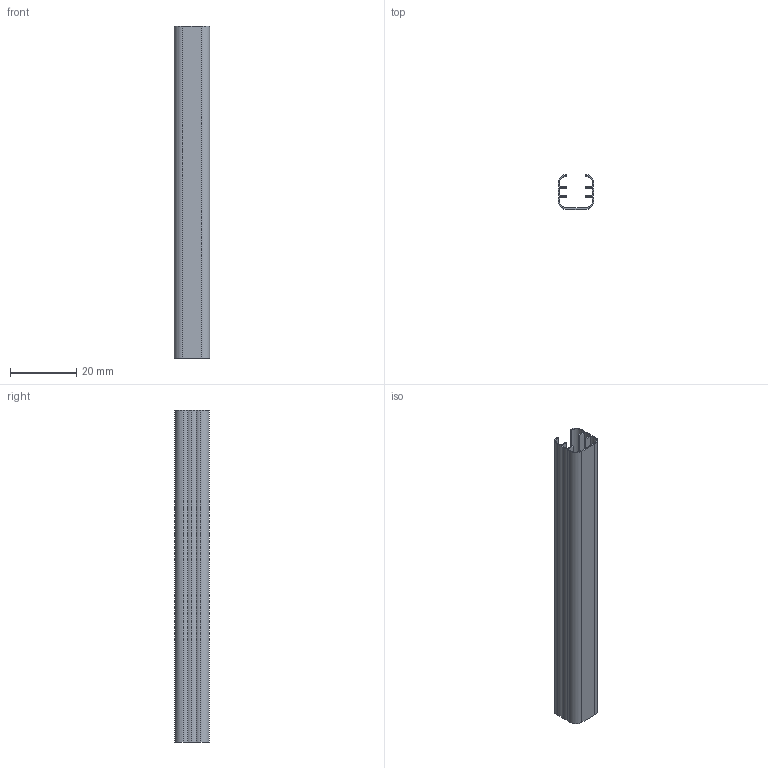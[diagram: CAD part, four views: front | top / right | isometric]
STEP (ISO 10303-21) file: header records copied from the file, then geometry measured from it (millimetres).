
FILE_DESCRIPTION (( 'STEP AP203' ), '1' );
FILE_NAME ('084.512.010.STEP', '2022-02-04T08:41:31', ( '' ), ( '' ), 'SwSTEP 2.0', 'SolidWorks 2018', '' );
FILE_SCHEMA (( 'CONFIG_CONTROL_DESIGN' ));
Length unit declared in the file: millimetre
Products named in the file (1): 084.512.010
Bounding box: 10.75 x 10.5 x 100 mm (x, y, z)
Volume: 1474.2 mm3; surface area: 8017.1 mm2
Topology: 1 solids, 1 shells, 36 faces, 102 edges, 68 vertices
Faces by surface type: cylinder 18, plane 18
Entity records: 1259 total; most frequent: DIRECTION 212, CARTESIAN_POINT 207, ORIENTED_EDGE 204, EDGE_CURVE 102, AXIS2_PLACEMENT_3D 73, VERTEX_POINT 68, LINE 66, VECTOR 66
